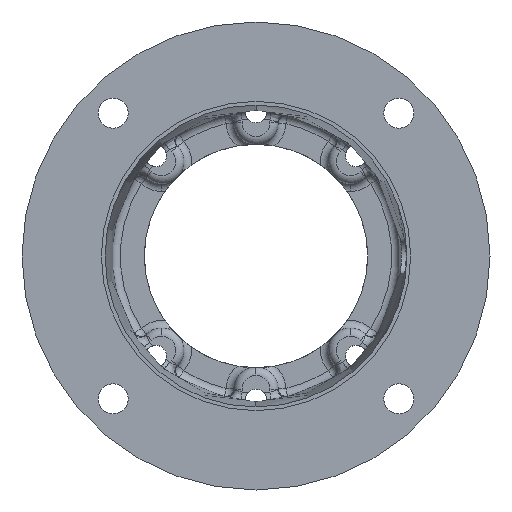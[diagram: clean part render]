
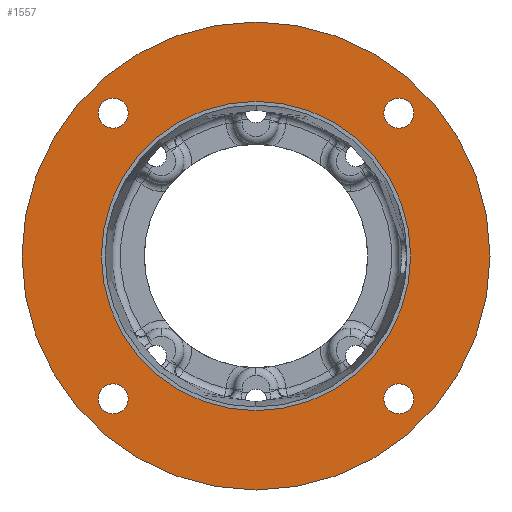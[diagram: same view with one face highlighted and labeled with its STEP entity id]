
A CAD part, front view. The second image highlights one B-rep face of the part: STEP entity #1557.
In plain terms, the highlighted planar face has unit normal (0, -1, 0).
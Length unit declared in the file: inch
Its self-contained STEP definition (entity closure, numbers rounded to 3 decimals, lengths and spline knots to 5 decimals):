
#5 = VERTEX_POINT ( 'NONE', #2657 ) ;
#7 = EDGE_CURVE ( 'NONE', #2007, #32, #2655, .T. ) ;
#31 = VERTEX_POINT ( 'NONE', #2731 ) ;
#32 = VERTEX_POINT ( 'NONE', #2730 ) ;
#97 = EDGE_CURVE ( 'NONE', #101, #120, #2871, .T. ) ;
#101 = VERTEX_POINT ( 'NONE', #2860 ) ;
#106 = VERTEX_POINT ( 'NONE', #2918 ) ;
#110 = EDGE_CURVE ( 'NONE', #115, #106, #2909, .T. ) ;
#115 = VERTEX_POINT ( 'NONE', #2898 ) ;
#120 = VERTEX_POINT ( 'NONE', #2895 ) ;
#1024 = VERTEX_POINT ( 'NONE', #5000 ) ;
#1026 = EDGE_CURVE ( 'NONE', #1027, #1024, #4999, .T. ) ;
#1027 = VERTEX_POINT ( 'NONE', #4994 ) ;
#1502 = EDGE_CURVE ( 'NONE', #1024, #1027, #6432, .T. ) ;
#1557 = ADVANCED_FACE ( 'NONE', ( #6525, #6524, #6523, #6522, #6521, #6520 ), #6519, .F. ) ;
#1558 = EDGE_LOOP ( 'NONE', ( #1559, #1561 ) ) ;
#1559 = ORIENTED_EDGE ( 'NONE', *, *, #1560, .F. ) ;
#1560 = EDGE_CURVE ( 'NONE', #120, #101, #6514, .T. ) ;
#1561 = ORIENTED_EDGE ( 'NONE', *, *, #97, .F. ) ;
#1562 = EDGE_LOOP ( 'NONE', ( #1563, #1565 ) ) ;
#1563 = ORIENTED_EDGE ( 'NONE', *, *, #1564, .T. ) ;
#1564 = EDGE_CURVE ( 'NONE', #106, #115, #6508, .T. ) ;
#1565 = ORIENTED_EDGE ( 'NONE', *, *, #110, .T. ) ;
#1566 = EDGE_LOOP ( 'NONE', ( #1625, #1627 ) ) ;
#1611 = ORIENTED_EDGE ( 'NONE', *, *, #1502, .T. ) ;
#1625 = ORIENTED_EDGE ( 'NONE', *, *, #1626, .T. ) ;
#1626 = EDGE_CURVE ( 'NONE', #32, #2007, #6656, .T. ) ;
#1627 = ORIENTED_EDGE ( 'NONE', *, *, #7, .T. ) ;
#1628 = EDGE_LOOP ( 'NONE', ( #1629, #1631 ) ) ;
#1629 = ORIENTED_EDGE ( 'NONE', *, *, #1630, .T. ) ;
#1630 = EDGE_CURVE ( 'NONE', #2409, #2168, #6651, .T. ) ;
#1631 = ORIENTED_EDGE ( 'NONE', *, *, #2313, .T. ) ;
#1632 = EDGE_LOOP ( 'NONE', ( #1633, #1635 ) ) ;
#1633 = ORIENTED_EDGE ( 'NONE', *, *, #1634, .T. ) ;
#1634 = EDGE_CURVE ( 'NONE', #5, #31, #6646, .T. ) ;
#1635 = ORIENTED_EDGE ( 'NONE', *, *, #2063, .T. ) ;
#1636 = EDGE_LOOP ( 'NONE', ( #1637, #1611 ) ) ;
#1637 = ORIENTED_EDGE ( 'NONE', *, *, #1026, .T. ) ;
#2007 = VERTEX_POINT ( 'NONE', #7557 ) ;
#2063 = EDGE_CURVE ( 'NONE', #31, #5, #7722, .T. ) ;
#2168 = VERTEX_POINT ( 'NONE', #8012 ) ;
#2313 = EDGE_CURVE ( 'NONE', #2168, #2409, #8438, .T. ) ;
#2409 = VERTEX_POINT ( 'NONE', #8775 ) ;
#2651 = DIRECTION ( 'NONE',  ( 0., 0., 1. ) ) ;
#2652 = DIRECTION ( 'NONE',  ( 0., 1., 0. ) ) ;
#2653 = CARTESIAN_POINT ( 'NONE',  ( -2.07889, 0., -2.07889 ) ) ;
#2654 = AXIS2_PLACEMENT_3D ( 'NONE', #2653, #2652, #2651 ) ;
#2655 = CIRCLE ( 'NONE', #2654, 0.21875 ) ;
#2657 = CARTESIAN_POINT ( 'NONE',  ( 2.07889, 0., 2.29764 ) ) ;
#2730 = CARTESIAN_POINT ( 'NONE',  ( -2.07889, 0., -1.86014 ) ) ;
#2731 = CARTESIAN_POINT ( 'NONE',  ( 2.07889, 0., 1.86014 ) ) ;
#2860 = CARTESIAN_POINT ( 'NONE',  ( 0., 0., 2.2505 ) ) ;
#2867 = DIRECTION ( 'NONE',  ( 0., 0., -1. ) ) ;
#2868 = DIRECTION ( 'NONE',  ( 0., -1., 0. ) ) ;
#2869 = CARTESIAN_POINT ( 'NONE',  ( 0., 0., 0. ) ) ;
#2870 = AXIS2_PLACEMENT_3D ( 'NONE', #2869, #2868, #2867 ) ;
#2871 = CIRCLE ( 'NONE', #2870, 2.2505 ) ;
#2895 = CARTESIAN_POINT ( 'NONE',  ( 0., 0., -2.2505 ) ) ;
#2898 = CARTESIAN_POINT ( 'NONE',  ( 2.07889, 0., -2.29764 ) ) ;
#2905 = DIRECTION ( 'NONE',  ( 0., 0., 1. ) ) ;
#2906 = DIRECTION ( 'NONE',  ( 0., 1., 0. ) ) ;
#2907 = CARTESIAN_POINT ( 'NONE',  ( 2.07889, 0., -2.07889 ) ) ;
#2908 = AXIS2_PLACEMENT_3D ( 'NONE', #2907, #2906, #2905 ) ;
#2909 = CIRCLE ( 'NONE', #2908, 0.21875 ) ;
#2918 = CARTESIAN_POINT ( 'NONE',  ( 2.07889, 0., -1.86014 ) ) ;
#4994 = CARTESIAN_POINT ( 'NONE',  ( 0., 0., -3.405 ) ) ;
#4995 = DIRECTION ( 'NONE',  ( 0., 0., -1. ) ) ;
#4996 = DIRECTION ( 'NONE',  ( 0., -1., 0. ) ) ;
#4997 = CARTESIAN_POINT ( 'NONE',  ( 0., 0., 0. ) ) ;
#4998 = AXIS2_PLACEMENT_3D ( 'NONE', #4997, #4996, #4995 ) ;
#4999 = CIRCLE ( 'NONE', #4998, 3.405 ) ;
#5000 = CARTESIAN_POINT ( 'NONE',  ( 0., 0., 3.405 ) ) ;
#6428 = DIRECTION ( 'NONE',  ( 0., 0., -1. ) ) ;
#6429 = DIRECTION ( 'NONE',  ( 0., -1., 0. ) ) ;
#6430 = CARTESIAN_POINT ( 'NONE',  ( 0., 0., 0. ) ) ;
#6431 = AXIS2_PLACEMENT_3D ( 'NONE', #6430, #6429, #6428 ) ;
#6432 = CIRCLE ( 'NONE', #6431, 3.405 ) ;
#6504 = DIRECTION ( 'NONE',  ( 0., 0., 1. ) ) ;
#6505 = DIRECTION ( 'NONE',  ( 0., 1., 0. ) ) ;
#6506 = CARTESIAN_POINT ( 'NONE',  ( 2.07889, 0., -2.07889 ) ) ;
#6507 = AXIS2_PLACEMENT_3D ( 'NONE', #6506, #6505, #6504 ) ;
#6508 = CIRCLE ( 'NONE', #6507, 0.21875 ) ;
#6510 = DIRECTION ( 'NONE',  ( 0., 0., -1. ) ) ;
#6511 = DIRECTION ( 'NONE',  ( 0., -1., 0. ) ) ;
#6512 = CARTESIAN_POINT ( 'NONE',  ( 0., 0., 0. ) ) ;
#6513 = AXIS2_PLACEMENT_3D ( 'NONE', #6512, #6511, #6510 ) ;
#6514 = CIRCLE ( 'NONE', #6513, 2.2505 ) ;
#6515 = DIRECTION ( 'NONE',  ( 0., 0., 1. ) ) ;
#6516 = DIRECTION ( 'NONE',  ( 0., 1., 0. ) ) ;
#6517 = CARTESIAN_POINT ( 'NONE',  ( -2.20315, 0., 0. ) ) ;
#6518 = AXIS2_PLACEMENT_3D ( 'NONE', #6517, #6516, #6515 ) ;
#6519 = PLANE ( 'NONE',  #6518 ) ;
#6520 = FACE_OUTER_BOUND ( 'NONE', #1636, .T. ) ;
#6521 = FACE_BOUND ( 'NONE', #1632, .T. ) ;
#6522 = FACE_BOUND ( 'NONE', #1628, .T. ) ;
#6523 = FACE_BOUND ( 'NONE', #1566, .T. ) ;
#6524 = FACE_BOUND ( 'NONE', #1562, .T. ) ;
#6525 = FACE_BOUND ( 'NONE', #1558, .T. ) ;
#6642 = DIRECTION ( 'NONE',  ( 0., 0., 1. ) ) ;
#6643 = DIRECTION ( 'NONE',  ( 0., 1., 0. ) ) ;
#6644 = CARTESIAN_POINT ( 'NONE',  ( 2.07889, 0., 2.07889 ) ) ;
#6645 = AXIS2_PLACEMENT_3D ( 'NONE', #6644, #6643, #6642 ) ;
#6646 = CIRCLE ( 'NONE', #6645, 0.21875 ) ;
#6647 = DIRECTION ( 'NONE',  ( 0., 0., 1. ) ) ;
#6648 = DIRECTION ( 'NONE',  ( 0., 1., 0. ) ) ;
#6649 = CARTESIAN_POINT ( 'NONE',  ( -2.07889, 0., 2.07889 ) ) ;
#6650 = AXIS2_PLACEMENT_3D ( 'NONE', #6649, #6648, #6647 ) ;
#6651 = CIRCLE ( 'NONE', #6650, 0.21875 ) ;
#6652 = DIRECTION ( 'NONE',  ( 0., 0., 1. ) ) ;
#6653 = DIRECTION ( 'NONE',  ( 0., 1., 0. ) ) ;
#6654 = CARTESIAN_POINT ( 'NONE',  ( -2.07889, 0., -2.07889 ) ) ;
#6655 = AXIS2_PLACEMENT_3D ( 'NONE', #6654, #6653, #6652 ) ;
#6656 = CIRCLE ( 'NONE', #6655, 0.21875 ) ;
#7557 = CARTESIAN_POINT ( 'NONE',  ( -2.07889, 0., -2.29764 ) ) ;
#7716 = DIRECTION ( 'NONE',  ( 0., 0., 1. ) ) ;
#7717 = DIRECTION ( 'NONE',  ( 0., 1., 0. ) ) ;
#7718 = CARTESIAN_POINT ( 'NONE',  ( 2.07889, 0., 2.07889 ) ) ;
#7719 = AXIS2_PLACEMENT_3D ( 'NONE', #7718, #7717, #7716 ) ;
#7722 = CIRCLE ( 'NONE', #7719, 0.21875 ) ;
#8012 = CARTESIAN_POINT ( 'NONE',  ( -2.07889, 0., 1.86014 ) ) ;
#8410 = CARTESIAN_POINT ( 'NONE',  ( -2.07889, 0., 2.07889 ) ) ;
#8435 = DIRECTION ( 'NONE',  ( 0., 0., 1. ) ) ;
#8436 = DIRECTION ( 'NONE',  ( 0., 1., 0. ) ) ;
#8437 = AXIS2_PLACEMENT_3D ( 'NONE', #8410, #8436, #8435 ) ;
#8438 = CIRCLE ( 'NONE', #8437, 0.21875 ) ;
#8775 = CARTESIAN_POINT ( 'NONE',  ( -2.07889, 0., 2.29764 ) ) ;
